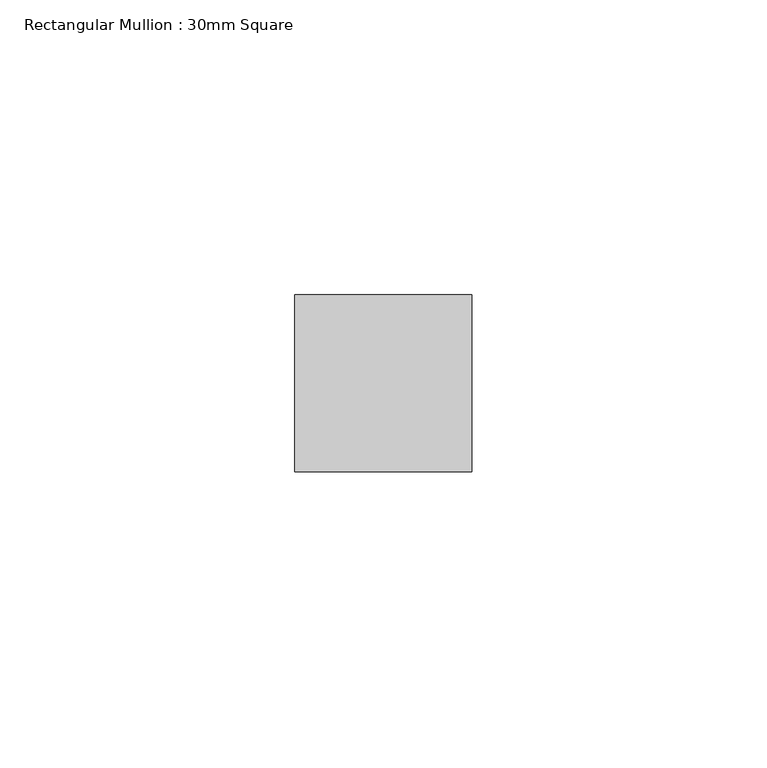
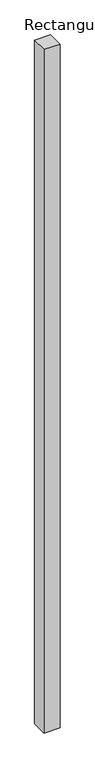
"""IFC4 building model written with IfcOpenShell, lengths in millimetres: member geometry, Rectangular Mullion : 30mm Square."""

from ifc_helpers import new_model, si_unit, frame, origin, place, context, project, spatial, polyline, outline, extrude, source, transform, mapped, element, save


def rectangular_mullion_30mm_square_635e6767(model_context):
    return source(origin(), model_context, "Body", "SweptSolid", [
        extrude(outline(polyline([(0.0, 15.0), (0.0, -15.0), (-30.0, -15.0), (-30.0, 15.0), (0.0, 15.0)])), frame((0.0, 0.0, -1357.3529881), z_axis=(0.0, 0.0, 1.0), x_axis=(1.0, 0.0, 0.0)), (0.0, 0.0, 1.0), 1357.3529881),
    ])


if __name__ == "__main__":
    model = new_model("IFC4")
    model_context = context("Model", 3, world=origin())
    ifc_project = project(units=[si_unit("LENGTHUNIT", "METRE", prefix="MILLI")], contexts=[model_context])
    site = spatial("IfcSite", under=ifc_project)
    building = spatial("IfcBuilding", under=site)
    placement = place(None, origin())
    rectangular_mullion_30mm_square_shape = rectangular_mullion_30mm_square_635e6767(model_context)
    element("IfcMember", 1, ObjectType="Rectangular Mullion : 30mm Square", at=placement, inside=building, context=model_context, shape_type="MappedRepresentation", body=[
        mapped(rectangular_mullion_30mm_square_shape, transform((0.0, 0.0, 0.0), x_axis=(1.0, 0.0, 0.0), y_axis=(0.0, 1.0, 0.0), z_axis=(0.0, 0.0, 1.0))),
    ])
    save(model, "model.ifc")
